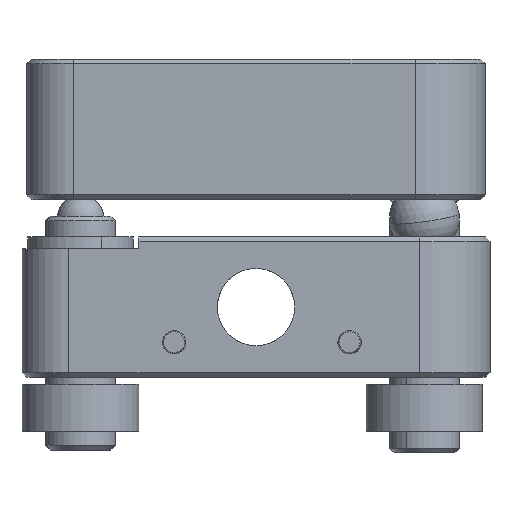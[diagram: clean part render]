
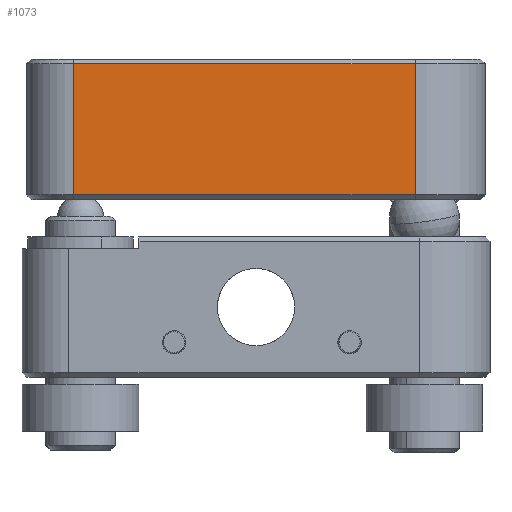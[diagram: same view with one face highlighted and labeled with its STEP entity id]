
A CAD part, front view. The second image highlights one B-rep face of the part: STEP entity #1073.
In plain terms, the highlighted planar face has unit normal (0, -1, 0).
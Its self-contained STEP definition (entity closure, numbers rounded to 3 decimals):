
#3 = AXIS2_PLACEMENT_3D ( 'NONE', #14018, #941, #1077 ) ;
#270 = LINE ( 'NONE', #6392, #3361 ) ;
#690 = DIRECTION ( 'NONE',  ( 0., 0., 1. ) ) ;
#790 = CARTESIAN_POINT ( 'NONE',  ( 6.8, -9.8, -8.207 ) ) ;
#834 = LINE ( 'NONE', #9133, #13594 ) ;
#910 = ORIENTED_EDGE ( 'NONE', *, *, #2561, .T. ) ;
#941 = DIRECTION ( 'NONE',  ( 0., 1., 0. ) ) ;
#1073 = ADVANCED_FACE ( 'NONE', ( #4564 ), #11634, .F. ) ;
#1077 = DIRECTION ( 'NONE',  ( 0., 0., -1. ) ) ;
#1823 = LINE ( 'NONE', #9891, #2770 ) ;
#2561 = EDGE_CURVE ( 'NONE', #8208, #6225, #834, .T. ) ;
#2770 = VECTOR ( 'NONE', #9818, 1000. ) ;
#3268 = ORIENTED_EDGE ( 'NONE', *, *, #3425, .T. ) ;
#3361 = VECTOR ( 'NONE', #7326, 1000. ) ;
#3425 = EDGE_CURVE ( 'NONE', #6314, #8208, #4899, .T. ) ;
#4012 = CARTESIAN_POINT ( 'NONE',  ( 6.8, -9.8, -2.607 ) ) ;
#4564 = FACE_OUTER_BOUND ( 'NONE', #10286, .T. ) ;
#4899 = LINE ( 'NONE', #9626, #5707 ) ;
#5707 = VECTOR ( 'NONE', #9147, 1000. ) ;
#6225 = VERTEX_POINT ( 'NONE', #4012 ) ;
#6314 = VERTEX_POINT ( 'NONE', #6677 ) ;
#6392 = CARTESIAN_POINT ( 'NONE',  ( -7.8, -9.8, -8.407 ) ) ;
#6677 = CARTESIAN_POINT ( 'NONE',  ( -7.8, -9.8, -8.207 ) ) ;
#7326 = DIRECTION ( 'NONE',  ( 0., 0., -1. ) ) ;
#8208 = VERTEX_POINT ( 'NONE', #790 ) ;
#9133 = CARTESIAN_POINT ( 'NONE',  ( 6.8, -9.8, -8.407 ) ) ;
#9147 = DIRECTION ( 'NONE',  ( 1., 0., 0. ) ) ;
#9626 = CARTESIAN_POINT ( 'NONE',  ( 6.8, -9.8, -8.207 ) ) ;
#9818 = DIRECTION ( 'NONE',  ( -1., 0., 0. ) ) ;
#9891 = CARTESIAN_POINT ( 'NONE',  ( 9.8, -9.8, -2.607 ) ) ;
#9919 = ORIENTED_EDGE ( 'NONE', *, *, #14426, .T. ) ;
#10286 = EDGE_LOOP ( 'NONE', ( #910, #10882, #9919, #3268 ) ) ;
#10882 = ORIENTED_EDGE ( 'NONE', *, *, #11230, .T. ) ;
#11230 = EDGE_CURVE ( 'NONE', #6225, #11692, #1823, .T. ) ;
#11634 = PLANE ( 'NONE',  #3 ) ;
#11692 = VERTEX_POINT ( 'NONE', #14886 ) ;
#13594 = VECTOR ( 'NONE', #690, 1000. ) ;
#14018 = CARTESIAN_POINT ( 'NONE',  ( 9.8, -9.8, -8.407 ) ) ;
#14426 = EDGE_CURVE ( 'NONE', #11692, #6314, #270, .T. ) ;
#14886 = CARTESIAN_POINT ( 'NONE',  ( -7.8, -9.8, -2.607 ) ) ;
